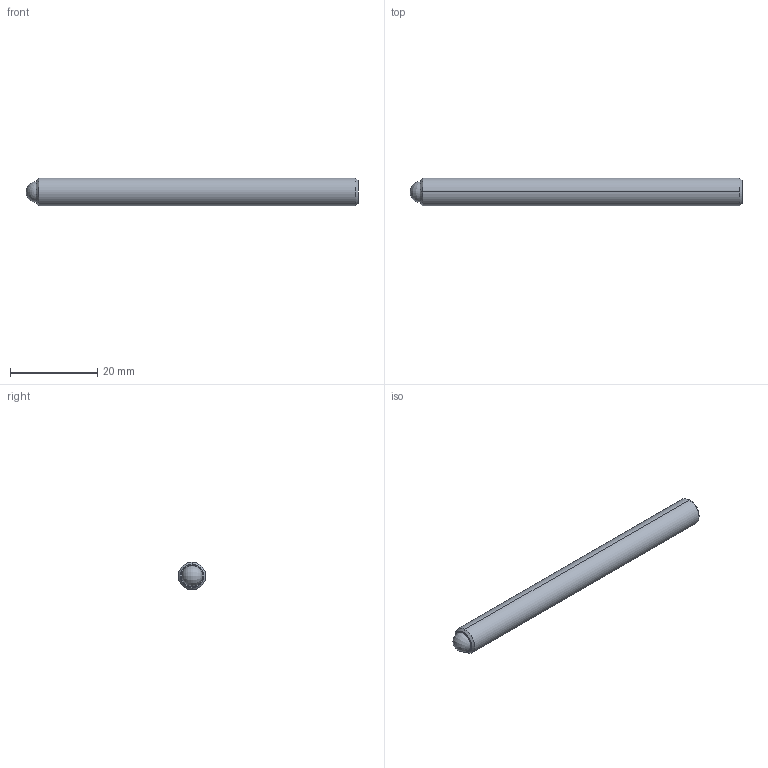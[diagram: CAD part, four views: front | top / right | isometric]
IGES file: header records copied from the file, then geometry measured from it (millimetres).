
Start section: SolidWorks IGES file using analytic representation for surfaces
Global section: file name: C:\Users\workpc\Desktop\KMA Solidworks\TS250-80 Series\TS250-80 SLDW\TS250-80-3000-AA.IGS; native system: SolidWorks 2013; preprocessor: SolidWorks 2013; author: workpc; date: 130211.171523; units: inch
Bounding box: 76.18 x 6.35 x 6.35 mm (x, y, z)
Surface area: 1640.1 mm2 (no closed solid volume)
Topology: 0 solids, 0 shells, 20 faces, 204 edges, 200 vertices
Faces by surface type: revolution 10, bspline 10
